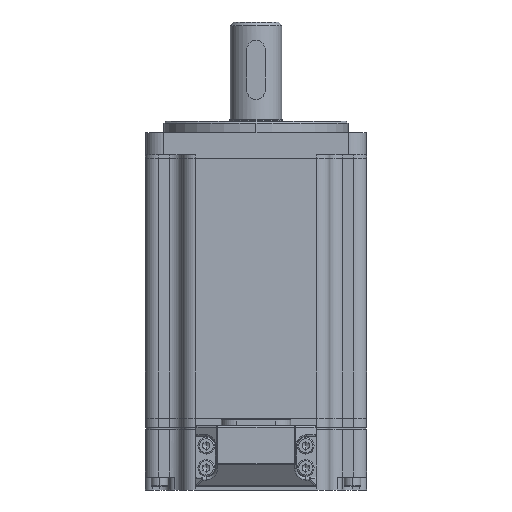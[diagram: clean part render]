
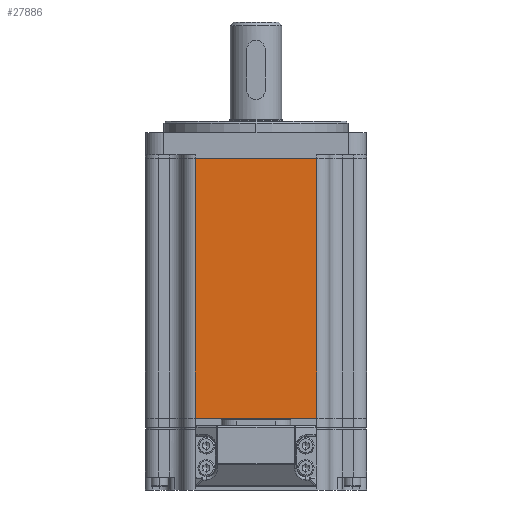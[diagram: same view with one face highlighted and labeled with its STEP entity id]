
A CAD part, left-side view. The second image highlights one B-rep face of the part: STEP entity #27886.
In plain terms, the highlighted planar face has unit normal (-1, 0, 0).
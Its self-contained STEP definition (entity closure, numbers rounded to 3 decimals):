
#234 = DIRECTION ( 'NONE',  ( 0., 0., -1. ) ) ;
#496 = CARTESIAN_POINT ( 'NONE',  ( -30., -16.5, -71.5 ) ) ;
#751 = CARTESIAN_POINT ( 'NONE',  ( -30., 16.5, -71.5 ) ) ;
#1457 = CARTESIAN_POINT ( 'NONE',  ( -30., 16.5, -1. ) ) ;
#2092 = LINE ( 'NONE', #19909, #9579 ) ;
#2537 = ORIENTED_EDGE ( 'NONE', *, *, #6062, .T. ) ;
#3310 = CARTESIAN_POINT ( 'NONE',  ( -30., -20., -71.5 ) ) ;
#3798 = CARTESIAN_POINT ( 'NONE',  ( -30., -16.5, -71.5 ) ) ;
#5827 = EDGE_LOOP ( 'NONE', ( #19055, #25938, #2537, #14549 ) ) ;
#6062 = EDGE_CURVE ( 'NONE', #14119, #14467, #9143, .T. ) ;
#8965 = DIRECTION ( 'NONE',  ( 0., 1., 0. ) ) ;
#9143 = LINE ( 'NONE', #40804, #16634 ) ;
#9579 = VECTOR ( 'NONE', #23106, 1000. ) ;
#13677 = CARTESIAN_POINT ( 'NONE',  ( -30., 16.5, -71.5 ) ) ;
#14119 = VERTEX_POINT ( 'NONE', #40872 ) ;
#14318 = VERTEX_POINT ( 'NONE', #496 ) ;
#14467 = VERTEX_POINT ( 'NONE', #1457 ) ;
#14549 = ORIENTED_EDGE ( 'NONE', *, *, #21621, .T. ) ;
#14910 = EDGE_CURVE ( 'NONE', #14318, #14119, #15785, .T. ) ;
#15785 = LINE ( 'NONE', #3798, #23223 ) ;
#16634 = VECTOR ( 'NONE', #8965, 1000. ) ;
#19055 = ORIENTED_EDGE ( 'NONE', *, *, #37916, .F. ) ;
#19352 = DIRECTION ( 'NONE',  ( 1., 0., 0. ) ) ;
#19754 = FACE_OUTER_BOUND ( 'NONE', #5827, .T. ) ;
#19909 = CARTESIAN_POINT ( 'NONE',  ( -30., -20., -71.5 ) ) ;
#21621 = EDGE_CURVE ( 'NONE', #14467, #32196, #38175, .T. ) ;
#22826 = AXIS2_PLACEMENT_3D ( 'NONE', #3310, #19352, #234 ) ;
#23106 = DIRECTION ( 'NONE',  ( 0., 1., 0. ) ) ;
#23223 = VECTOR ( 'NONE', #32433, 1000. ) ;
#25938 = ORIENTED_EDGE ( 'NONE', *, *, #14910, .T. ) ;
#27886 = ADVANCED_FACE ( 'NONE', ( #19754 ), #38472, .F. ) ;
#29651 = VECTOR ( 'NONE', #32825, 1000. ) ;
#32196 = VERTEX_POINT ( 'NONE', #751 ) ;
#32433 = DIRECTION ( 'NONE',  ( 0., 0., 1. ) ) ;
#32825 = DIRECTION ( 'NONE',  ( 0., 0., -1. ) ) ;
#37916 = EDGE_CURVE ( 'NONE', #14318, #32196, #2092, .T. ) ;
#38175 = LINE ( 'NONE', #13677, #29651 ) ;
#38472 = PLANE ( 'NONE',  #22826 ) ;
#40804 = CARTESIAN_POINT ( 'NONE',  ( -30., -20., -1. ) ) ;
#40872 = CARTESIAN_POINT ( 'NONE',  ( -30., -16.5, -1. ) ) ;
